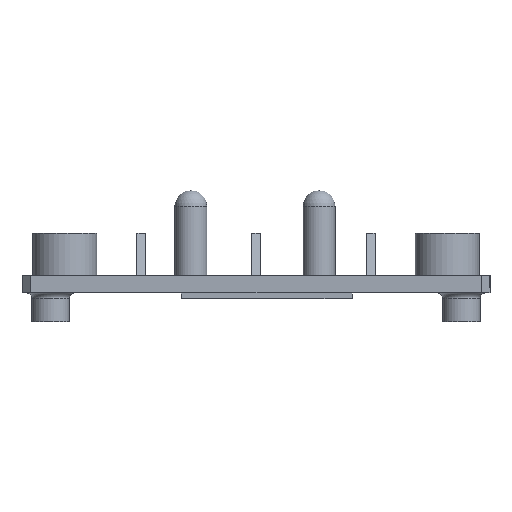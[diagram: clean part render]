
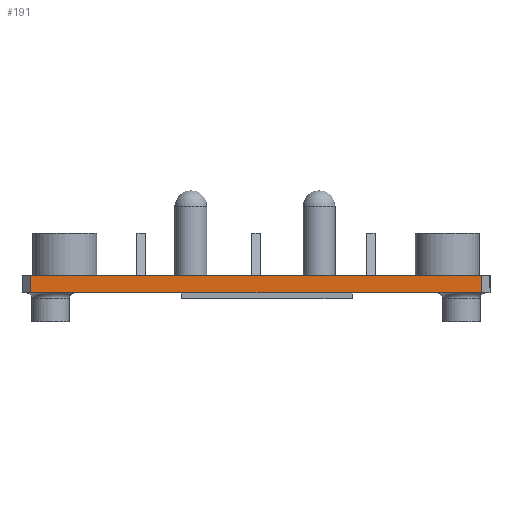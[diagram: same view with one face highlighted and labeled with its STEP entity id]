
A CAD part, left-side view. The second image highlights one B-rep face of the part: STEP entity #191.
In plain terms, the highlighted planar face has unit normal (-1, 0, 0).
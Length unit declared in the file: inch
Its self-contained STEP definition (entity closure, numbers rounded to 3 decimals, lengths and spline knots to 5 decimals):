
#135=FACE_OUTER_BOUND('',#702,.T.);
#191=ADVANCED_FACE('',(#135),#280,.T.);
#280=PLANE('',#1526);
#358=LINE('',#2100,#488);
#369=LINE('',#2123,#499);
#370=LINE('',#2126,#500);
#371=LINE('',#2127,#501);
#488=VECTOR('',#1687,1.);
#499=VECTOR('',#1702,1.);
#500=VECTOR('',#1703,1.);
#501=VECTOR('',#1704,1.);
#702=EDGE_LOOP('',(#867,#868,#869,#870));
#867=ORIENTED_EDGE('',*,*,#1340,.T.);
#868=ORIENTED_EDGE('',*,*,#1341,.T.);
#869=ORIENTED_EDGE('',*,*,#1329,.T.);
#870=ORIENTED_EDGE('',*,*,#1342,.T.);
#1199=VERTEX_POINT('',#2101);
#1200=VERTEX_POINT('',#2102);
#1209=VERTEX_POINT('',#2124);
#1210=VERTEX_POINT('',#2125);
#1329=EDGE_CURVE('',#1199,#1200,#358,.T.);
#1340=EDGE_CURVE('',#1209,#1210,#369,.T.);
#1341=EDGE_CURVE('',#1210,#1199,#370,.T.);
#1342=EDGE_CURVE('',#1200,#1209,#371,.T.);
#1526=AXIS2_PLACEMENT_3D('',#2128,#1705,#1706);
#1687=DIRECTION('',(0.,1.,0.));
#1702=DIRECTION('',(0.,-1.,0.));
#1703=DIRECTION('',(0.,0.,1.));
#1704=DIRECTION('',(0.,0.,-1.));
#1705=DIRECTION('',(-1.,0.,0.));
#1706=DIRECTION('',(0.,0.,1.));
#2100=CARTESIAN_POINT('',(0.,1.369,0.1));
#2101=CARTESIAN_POINT('',(0.,0.05,0.1));
#2102=CARTESIAN_POINT('',(0.,2.688,0.1));
#2123=CARTESIAN_POINT('',(0.,1.369,0.));
#2124=CARTESIAN_POINT('',(0.,2.688,0.));
#2125=CARTESIAN_POINT('',(0.,0.05,0.));
#2126=CARTESIAN_POINT('',(0.,0.05,0.));
#2127=CARTESIAN_POINT('',(0.,2.688,0.));
#2128=CARTESIAN_POINT('',(0.,1.369,0.));
